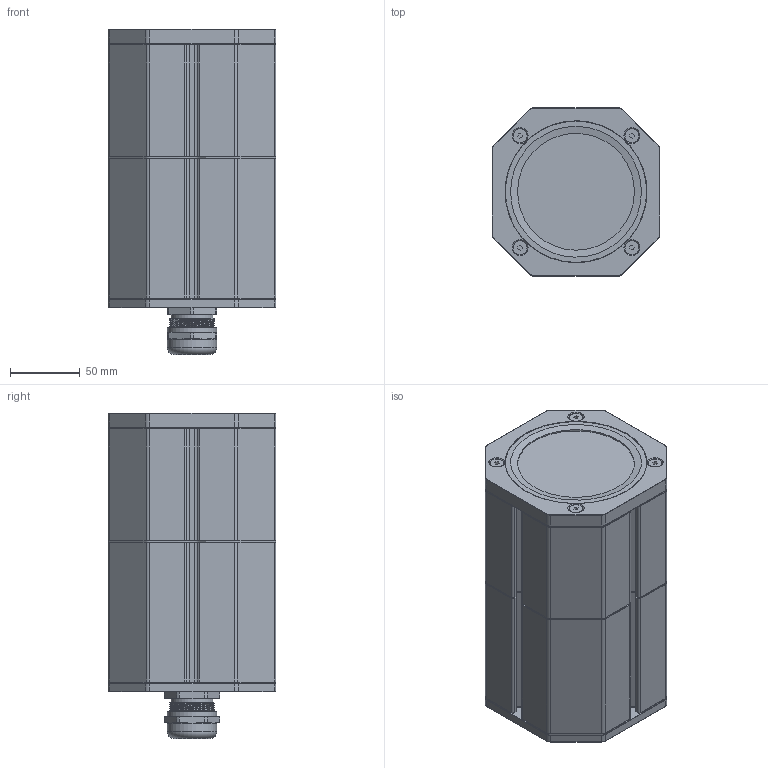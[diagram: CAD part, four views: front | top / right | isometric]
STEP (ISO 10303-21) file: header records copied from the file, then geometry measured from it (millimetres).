
FILE_DESCRIPTION(/* description */ (''),/* implementation_level */ '2;1');
FILE_NAME(/* name */ 'FG-CH87-V0-080-100-F1.1-B1.1.stp',/* time_stamp */ '2026-05-08T12:26:18+02:00',/* author */ ('roman'),/* organization */ (''),/* preprocessor_version */ 'ST-DEVELOPER v20',/* originating_system */ 'Autodesk Inventor 2024',/* authorisation */ '');
FILE_SCHEMA (('AUTOMOTIVE_DESIGN { 1 0 10303 214 3 1 1 }'));
Length unit declared in the file: millimetre
Products named in the file (16): FG-CH87-V0-080-100-F1.1-B1.1; SUB-CH87-MID-V0-080-100; CH87-BDB-V0-100; CH87-ROD-180; CH87-BDF-V0-080; SUB-CH87-BCK-V0-B1.1; CH87-CPB-V0-D32.5-RD; SKINTOP 32x1.5; Matice pruchodky M32x1,5; CH87-SL1-V0; SUB-CH87-FRT-V0-F1.1; CH87-CPF-V0-D85.5-RD; CH87-GLS; CH87-SLW; CH87-SL2-V0; DIN 7991 - M5x20
Assembly tree (26 placements, depth 3):
  FG-CH87-V0-080-100-F1.1-B1.1
    SUB-CH87-MID-V0-080-100
      CH87-BDB-V0-100
      CH87-ROD-180  x4
      CH87-SL1-V0
      CH87-BDF-V0-080
    SUB-CH87-BCK-V0-B1.1
      CH87-CPB-V0-D32.5-RD
      SKINTOP 32x1.5
      Matice pruchodky M32x1,5
    CH87-SL1-V0
    DIN 7991 - M5x20  x8
    SUB-CH87-FRT-V0-F1.1
      CH87-CPF-V0-D85.5-RD
      CH87-GLS
      CH87-SLW
    CH87-SL2-V0
Bounding box: 120 x 120 x 232.4 mm (x, y, z)
Volume: 784798 mm3; surface area: 444858.6 mm2
Topology: 23 solids, 23 shells, 1025 faces, 2750 edges, 1777 vertices
Faces by surface type: plane 459, cylinder 456, cone 98, torus 9, bspline 3
Full cylindrical faces by diameter (mm): 4 x4, 5 x8, 5.5 x4, 6 x8, 6.8 x20, 8.5 x4, 10 x8, 21.4 x1, 25 x1, 30 x2, 30.376 x1, 32 x6, 32.2 x1, 32.5 x1, 35.3 x2, 83 x1, 83.5 x1, 85.5 x3, 87 x5, 101 x1, 101.5 x1
Entity records: 26307 total; most frequent: CARTESIAN_POINT 5494, DIRECTION 4428, ORIENTED_EDGE 4134, EDGE_CURVE 2067, AXIS2_PLACEMENT_3D 1616, VERTEX_POINT 1340, LINE 1196, VECTOR 1196
